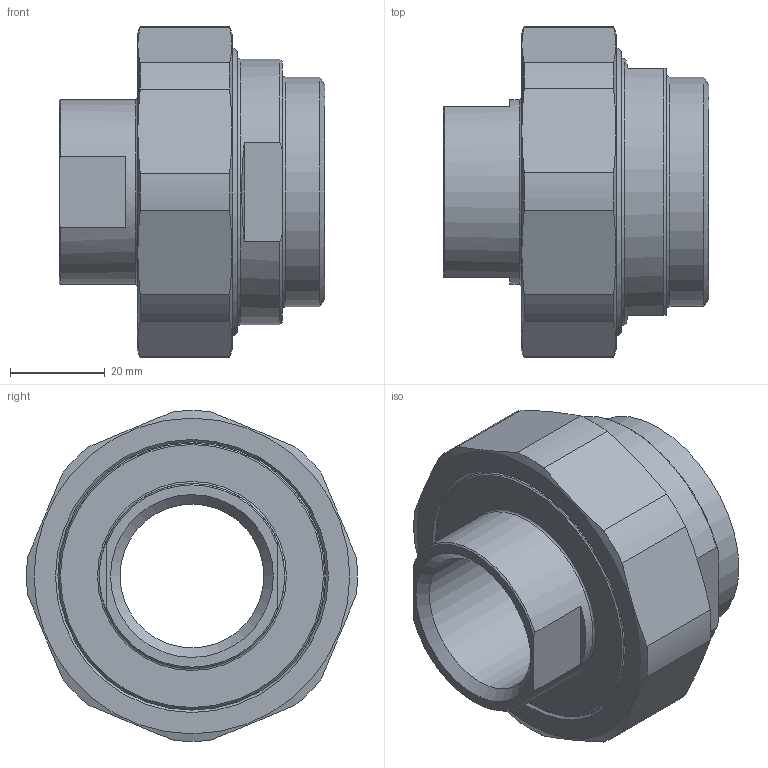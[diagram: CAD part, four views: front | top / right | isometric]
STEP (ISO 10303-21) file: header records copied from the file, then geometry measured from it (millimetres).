
FILE_DESCRIPTION(/* description */ (''),/* implementation_level */ '2;1');
FILE_NAME(/* name */ 'C:\Users\cad\Desktop\Zeichnungen neu von Ralph\Ganze Kupplungen\3D_Kupplung-R134-E-SG\3D_R134-E-SG-DN25-48.3_17101733.stp',/* time_stamp */ '2021-07-01T07:41:19+02:00',/* author */ ('cad'),/* organization */ (''),/* preprocessor_version */ 'ST-DEVELOPER v18.1',/* originating_system */ 'Autodesk Inventor 2022',/* authorisation */ '');
FILE_SCHEMA (('AUTOMOTIVE_DESIGN { 1 0 10303 214 3 1 1 }'));
Length unit declared in the file: millimetre
Products named in the file (4): 3D_R134-E-SG-DN25-48.3_17101733; 3D_R134-M-DN40_171011630; 3D_R134-SG-48.3_171011530; 3D_R134-E-DN25-DN40_171011033
Assembly tree (3 placements, depth 2):
  3D_R134-E-SG-DN25-48.3_17101733
    3D_R134-M-DN40_171011630
    3D_R134-SG-48.3_171011530
    3D_R134-E-DN25-DN40_171011033
Bounding box: 56 x 69.68 x 69.65 mm (x, y, z)
Volume: 70716.6 mm3; surface area: 32138.1 mm2
Topology: 3 solids, 3 shells, 79 faces, 193 edges, 127 vertices
Faces by surface type: plane 29, cone 21, cylinder 19, torus 10
Full cylindrical faces by diameter (mm): 30.291 x1, 39 x1, 43.1 x1, 43.3 x1, 48.3 x1, 56 x2, 56.5 x1, 60 x1, 60.376 x1, 61.85 x1
Entity records: 2507 total; most frequent: CARTESIAN_POINT 454, DIRECTION 450, ORIENTED_EDGE 386, AXIS2_PLACEMENT_3D 195, EDGE_CURVE 193, VERTEX_POINT 127, CIRCLE 107, EDGE_LOOP 92
